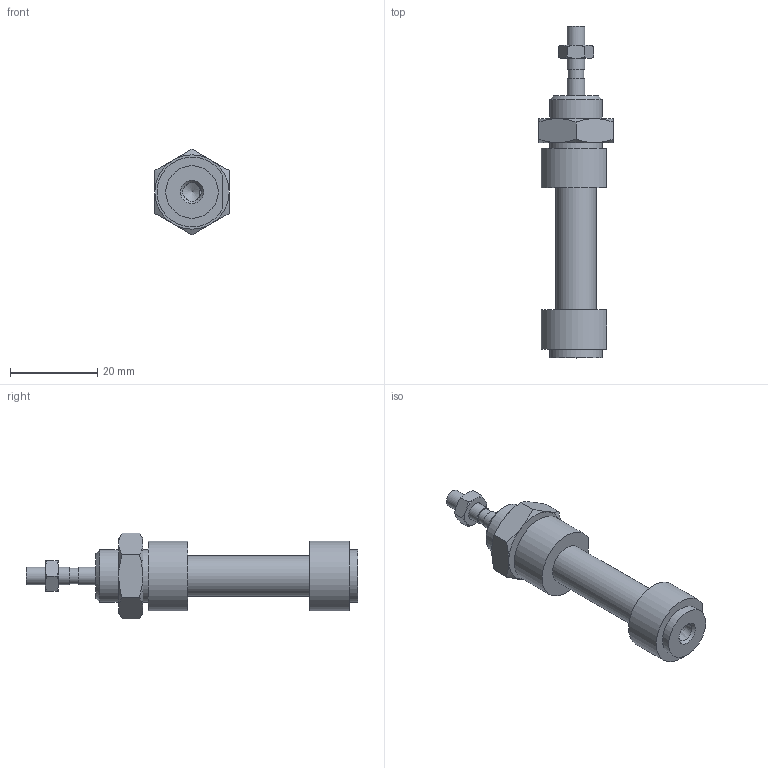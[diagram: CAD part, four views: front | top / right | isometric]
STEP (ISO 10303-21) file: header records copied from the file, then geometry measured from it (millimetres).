
FILE_DESCRIPTION((''),'2;1');
FILE_NAME('I:\Area Tecnica\Disegni\VARIE-3D\Componenti\1280\1281_##_####_#\1281_08_0000.iam.stp','2009-06-04T09:37:02',(''),(''),'Autodesk Inventor 2010','Autodesk Inventor 2010','');
FILE_SCHEMA(('AUTOMOTIVE_DESIGN { 1 0 10303 214 1 1 1 1 }'));
Length unit declared in the file: millimetre
Products named in the file (5): 1281_08_0000; C1281_08_0; S1280_08_0; 1200_08_05; 1200_08_06
Assembly tree (4 placements, depth 2):
  1281_08_0000
    C1281_08_0
    S1280_08_0
    1200_08_05
    1200_08_06
Bounding box: 17 x 76 x 19.63 mm (x, y, z)
Volume: 7869 mm3; surface area: 4739 mm2
Topology: 4 solids, 4 shells, 79 faces, 165 edges, 100 vertices
Faces by surface type: plane 29, cone 26, bspline 15, cylinder 9
Full cylindrical faces by diameter (mm): 3.5 x1, 4 x3, 9.2 x1, 12 x2
Entity records: 2316 total; most frequent: CARTESIAN_POINT 655, DIRECTION 294, ORIENTED_EDGE 274, EDGE_CURVE 137, AXIS2_PLACEMENT_3D 135, EDGE_LOOP 114, VERTEX_POINT 93, STYLED_ITEM 83
